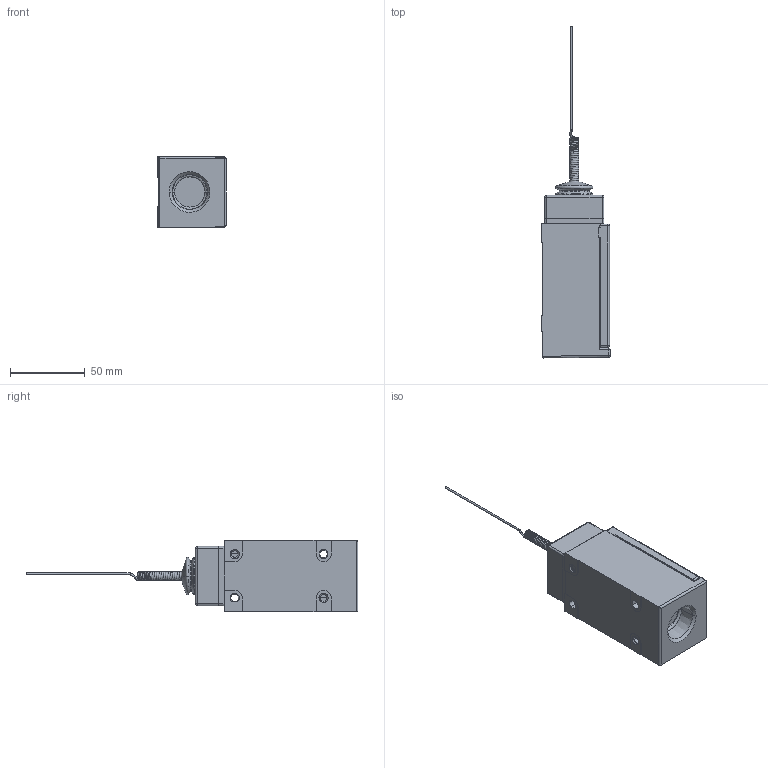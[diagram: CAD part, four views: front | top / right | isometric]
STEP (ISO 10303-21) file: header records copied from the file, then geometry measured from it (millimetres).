
FILE_DESCRIPTION((''),'2;1');
FILE_NAME('LSK4L-8A','2012-12-06T',('E522935'),(''),'PRO/ENGINEER BY PARAMETRIC TECHNOLOGY CORPORATION, 2009460','PRO/ENGINEER BY PARAMETRIC TECHNOLOGY CORPORATION, 2009460','');
FILE_SCHEMA(('CONFIG_CONTROL_DESIGN'));
Length unit declared in the file: inch
Products named in the file (1): LSK4L-8A
Bounding box: 45.72 x 222.24 x 47.62 mm (x, y, z)
Volume: 212713.4 mm3; surface area: 31098.1 mm2
Topology: 1 solids, 2 shells, 497 faces, 1243 edges, 765 vertices
Faces by surface type: plane 244, cylinder 170, cone 39, sphere 23, bspline 13, torus 8
Entity records: 24329 total; most frequent: CARTESIAN_POINT 12490, ORIENTED_EDGE 2486, DIRECTION 2457, EDGE_CURVE 1243, AXIS2_PLACEMENT_3D 900, VERTEX_POINT 765, VECTOR 657, LINE 657
